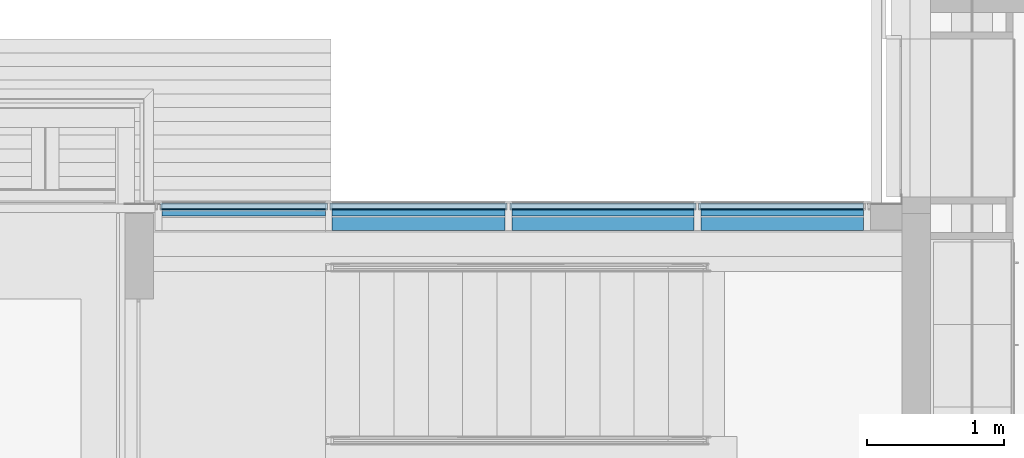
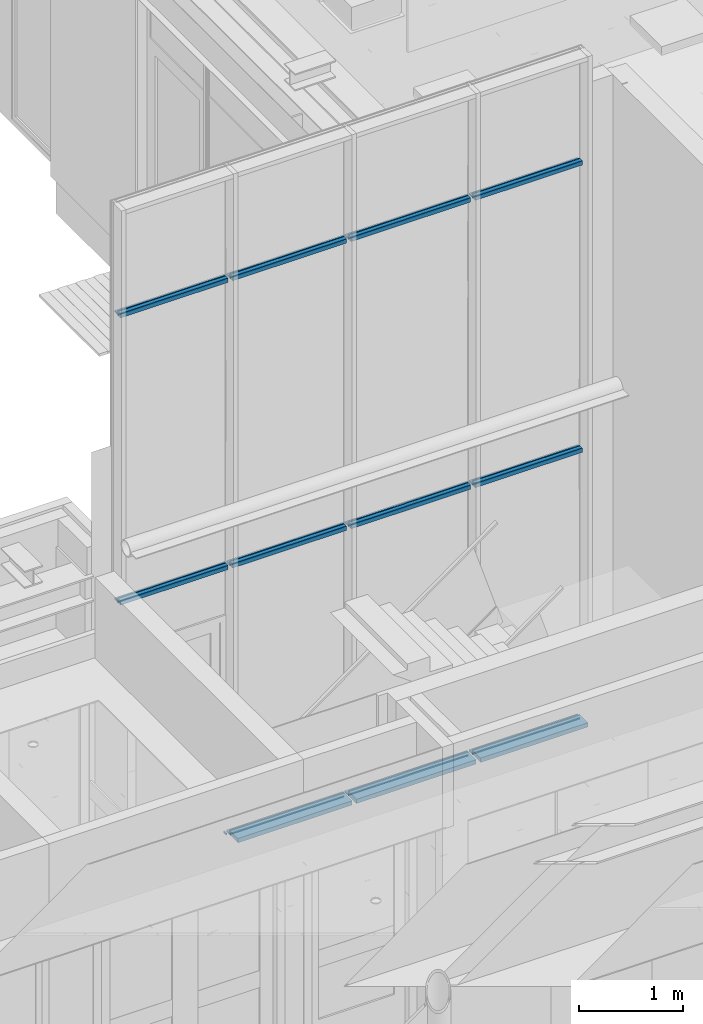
# One storey, part 104 of 347: 9 building element parts, 1 opening, 1 element without a shape of its own.
"""IFC2X3 building model written with IfcOpenShell, lengths in millimetres."""

import ifcopenshell
import ifcopenshell.guid

model = None  # the IFC model being written
_history = None  # IfcOwnerHistory: only IFC2X3 demands one
_inside = {}  # id of a spatial element -> (the spatial element, [elements in it])
_under = {}  # id of a project, library or spatial element -> (it, [spatial elements below it])
_declared = {}  # id of a project -> (the project, [libraries it declares])
_typed = {}  # id of a type object -> (the type object, [elements of that type])
_made_of = {}  # id of a material, layer set ... -> (it, [elements and type objects made of it])


def new_model(schema):
    """Start an empty IFC model of exactly this schema.

    Asked for "IFC4X3", IfcOpenShell would pick the latest addendum, in which some entities
    have other attributes; the version numbers below select the first issue.
    IFC2X3 requires an IfcOwnerHistory on every rooted entity: one is made here for all.
    """
    global model, _history
    if schema == "IFC4X3":
        model = ifcopenshell.file(schema_version=(4, 3, 0, 0))
    else:
        model = ifcopenshell.file(schema=schema)
    _inside.clear()
    _under.clear()
    _declared.clear()
    _typed.clear()
    _made_of.clear()
    _history = None
    if model.schema == "IFC2X3":
        org = make("IfcOrganization", Name="unknown")
        user = make(
            "IfcPersonAndOrganization",
            ThePerson=make("IfcPerson", FamilyName="unknown"),
            TheOrganization=org,
        )
        app = make(
            "IfcApplication",
            ApplicationDeveloper=org,
            Version="unknown",
            ApplicationFullName="unknown",
            ApplicationIdentifier="unknown",
        )
        _history = make(
            "IfcOwnerHistory",
            OwningUser=user,
            OwningApplication=app,
            ChangeAction="ADDED",
            CreationDate=0,
        )
    return model


def make(cls, **values):
    """One entity of the class cls with the attributes given. An attribute that is None is left unset."""
    return model.create_entity(
        cls, **{name: value for name, value in values.items() if value is not None}
    )


def entity(cls, *values):
    """Any entity or typed value of the class cls, its attributes in the order of the schema. None: left unset."""
    e = model.create_entity(cls)
    for i, value in enumerate(values):
        if value is not None:
            e[i] = value
    return e


def rooted(cls, **values):
    """An entity with a GlobalId (a new one), such as an element, a storey or a relation."""
    return make(cls, GlobalId=ifcopenshell.guid.new(), OwnerHistory=_history, **values)


def si_unit(unit_type, name, prefix=None):
    """IfcSIUnit, for example si_unit("LENGTHUNIT", "METRE", prefix="MILLI")."""
    return make("IfcSIUnit", UnitType=unit_type, Prefix=prefix, Name=name)


def converted_unit(unit_type, name, factor, base, dimensions=None, offset=None):
    """IfcConversionBasedUnit, such as the inch: factor (a typed value) times the base unit."""
    return make(
        "IfcConversionBasedUnit"
        if offset is None
        else "IfcConversionBasedUnitWithOffset",
        ConversionOffset=offset,
        Dimensions=None
        if dimensions is None
        else entity("IfcDimensionalExponents", *dimensions),
        UnitType=unit_type,
        Name=name,
        ConversionFactor=make(
            "IfcMeasureWithUnit", ValueComponent=factor, UnitComponent=base
        ),
    )


def derived_unit(unit_type, elements):
    """IfcDerivedUnit: a product of units, each with its exponent."""
    return make(
        "IfcDerivedUnit",
        Elements=[
            make("IfcDerivedUnitElement", Unit=unit, Exponent=power)
            for unit, power in elements
        ],
        UnitType=unit_type,
    )


def money_unit(currency):
    """IfcMonetaryUnit."""
    return make("IfcMonetaryUnit", Currency=currency)


def assignment(units):
    """IfcUnitAssignment: the units of a project."""
    return None if units is None else make("IfcUnitAssignment", Units=units)


def point(xyz):
    """IfcCartesianPoint."""
    return None if xyz is None else make("IfcCartesianPoint", Coordinates=xyz)


def direction(xyz):
    """IfcDirection."""
    return None if xyz is None else make("IfcDirection", DirectionRatios=xyz)


def frame(location, z_axis=None, x_axis=None):
    """IfcAxis2Placement3D, a coordinate frame: its origin and axes. An axis left out is left unset."""
    return make(
        "IfcAxis2Placement3D",
        Location=point(location),
        Axis=direction(z_axis),
        RefDirection=direction(x_axis),
    )


def origin_with_axes():
    """The frame at (0, 0, 0) with the z axis (0, 0, 1) and the x axis (1, 0, 0) written out."""
    return frame((0.0, 0.0, 0.0), z_axis=(0.0, 0.0, 1.0), x_axis=(1.0, 0.0, 0.0))


def place(relative_to, where):
    """IfcLocalPlacement: puts the frame where relative to a parent placement (None: the world)."""
    return make(
        "IfcLocalPlacement", PlacementRelTo=relative_to, RelativePlacement=where
    )


def context(
    kind, dimensions, precision=None, world=None, true_north=None, identifier=None
):
    """IfcGeometricRepresentationContext, for example the 3D "Model" context."""
    return make(
        "IfcGeometricRepresentationContext",
        ContextIdentifier=identifier,
        ContextType=kind,
        CoordinateSpaceDimension=dimensions,
        Precision=precision,
        WorldCoordinateSystem=world,
        TrueNorth=true_north,
    )


def subcontext(parent, identifier, kind, view, scale=None):
    """IfcGeometricRepresentationSubContext, for example "Body" below "Model"."""
    return make(
        "IfcGeometricRepresentationSubContext",
        ContextIdentifier=identifier,
        ContextType=kind,
        ParentContext=parent,
        TargetScale=scale,
        TargetView=view,
    )


def project(units=None, contexts=None):
    """IfcProject with its units and contexts."""
    return rooted(
        "IfcProject",
        Name="project",
        RepresentationContexts=contexts,
        UnitsInContext=assignment(units),
    )


def spatial(cls, under=None, at=None, **own):
    """A site, building, storey or space (cls), placed at a placement, below another one or the project."""
    s = rooted(cls, ObjectPlacement=at, **own)
    if under is not None:
        _under.setdefault(under.id(), (under, []))[1].append(s)
    return s


def faces_of(points, faces, orient=None, outer=None):
    """IfcFace entities. A face is a list of loops; a loop is a list of indices into points, from 0.

    orient and outer hold one flag for each loop. By default every Orientation is true, the
    first loop of a face is its IfcFaceOuterBound and the others are IfcFaceBound.
    """
    made = []
    for i, loops in enumerate(faces):
        bounds = []
        for j, loop in enumerate(loops):
            is_outer = j == 0 if outer is None else outer[i][j]
            bounds.append(
                make(
                    "IfcFaceOuterBound" if is_outer else "IfcFaceBound",
                    Bound=make("IfcPolyLoop", Polygon=[points[k] for k in loop]),
                    Orientation=True if orient is None else orient[i][j],
                )
            )
        made.append(make("IfcFace", Bounds=bounds))
    return made


def faceted_brep(points, faces, orient=None, outer=None, voids=None):
    """IfcFacetedBrep: a solid bounded by flat faces; with voids (closed shells), ...WithVoids."""
    shared = [point(p) for p in points]
    hull = make("IfcClosedShell", CfsFaces=faces_of(shared, faces, orient, outer))
    if voids is None:
        return make("IfcFacetedBrep", Outer=hull)
    return make(
        "IfcFacetedBrepWithVoids",
        Outer=hull,
        Voids=[
            make(cls, CfsFaces=faces_of(shared, fs, o, b)) for cls, fs, o, b in voids
        ],
    )


def shape(context_of_items, identifier, shape_type, items):
    """IfcShapeRepresentation: the items that make up one representation, for example the "Body"."""
    return make(
        "IfcShapeRepresentation",
        ContextOfItems=context_of_items,
        RepresentationIdentifier=identifier,
        RepresentationType=shape_type,
        Items=items,
    )


def material(Name=None, Category=None):
    """IfcMaterial."""
    return make("IfcMaterial", Name=Name, Category=Category)


def made_of(thing, what):
    """Note that an element or type object is made of a material, layer set ...; save() writes the relation."""
    if what is not None:
        _made_of.setdefault(what.id(), (what, []))[1].append(thing)
    return thing


def type_object(cls, material=None, **own):
    """A type object (cls), such as IfcWallType, which elements share."""
    return made_of(rooted(cls, **own), material)


def element(
    cls,
    number,
    at=None,
    inside=None,
    cuts=None,
    type_object=None,
    material=None,
    context=None,
    identifier="Body",
    shape_type=None,
    held_by="IfcProductDefinitionShape",
    body=None,
    shapes=None,
    **own,
):
    """One element of the class cls, such as IfcWall. Its Tag is "e" and its number.

    at: its placement. inside: the storey or other place that contains it. cuts: it is an
    opening in that element (IfcRelVoidsElement). A single representation is given by context,
    identifier, shape_type and body (its items); several are given by shapes. held_by: the class
    of the entity that holds the representations. save() writes the other relations.
    """
    e = rooted(cls, Tag="e%d" % number, ObjectPlacement=at, **own)
    if body is not None:
        shapes = [shape(context, identifier, shape_type, body)]
    if shapes is not None:
        e.Representation = make(held_by, Representations=shapes)
    if inside is not None:
        _inside.setdefault(inside.id(), (inside, []))[1].append(e)
    if cuts is not None:
        rooted(
            "IfcRelVoidsElement", RelatingBuildingElement=cuts, RelatedOpeningElement=e
        )
    if type_object is not None:
        _typed.setdefault(type_object.id(), (type_object, []))[1].append(e)
    return made_of(e, material)


def aggregate(whole, parts):
    """IfcRelAggregates: a whole, such as a stair, and the parts it consists of."""
    return rooted("IfcRelAggregates", RelatingObject=whole, RelatedObjects=parts)


def save(model, path):
    """Write the relations noted so far, then the file.

    IfcRelAggregates (storeys below a building ...), IfcRelContainedInSpatialStructure (elements
    in a storey), IfcRelDefinesByType, IfcRelAssociatesMaterial and IfcRelDeclares: one each for
    every whole, place, type object, material and project.
    """
    for whole, parts in _under.values():
        aggregate(whole, parts)
    for where, things in _inside.values():
        rooted(
            "IfcRelContainedInSpatialStructure",
            RelatedElements=things,
            RelatingStructure=where,
        )
    for kind, things in _typed.values():
        rooted("IfcRelDefinesByType", RelatedObjects=things, RelatingType=kind)
    for what, things in _made_of.values():
        rooted("IfcRelAssociatesMaterial", RelatedObjects=things, RelatingMaterial=what)
    for by, libraries in _declared.values():
        rooted("IfcRelDeclares", RelatingContext=by, RelatedDefinitions=libraries)
    model.write(path)


model = new_model("IFC2X3")

# Units and contexts
model_context = context("Model", 3, precision=0.01, world=origin_with_axes(), true_north=direction((0.0, 1.0)))
plan_context = context("Plan", 3, precision=0.01, world=origin_with_axes(), true_north=direction((0.0, 1.0)))
body_context = subcontext(model_context, "Body", "Model", "MODEL_VIEW")
ifc_project = project(units=[si_unit("LENGTHUNIT", "METRE", prefix="MILLI"), si_unit("AREAUNIT", "SQUARE_METRE"), si_unit("VOLUMEUNIT", "CUBIC_METRE"), converted_unit("PLANEANGLEUNIT", "DEGREE", entity("IfcPlaneAngleMeasure", 0.0174532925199), si_unit("PLANEANGLEUNIT", "RADIAN"), dimensions=[0, 0, 0, 0, 0, 0, 0]), money_unit("EUR"), converted_unit("TIMEUNIT", "Year", entity("IfcTimeMeasure", 31556926.0), si_unit("TIMEUNIT", "SECOND"), dimensions=[0, 0, 1, 0, 0, 0, 0]), si_unit("MASSUNIT", "GRAM", prefix="KILO"), si_unit("THERMODYNAMICTEMPERATUREUNIT", "DEGREE_CELSIUS"), si_unit("LUMINOUSINTENSITYUNIT", "LUMEN"), si_unit("ENERGYUNIT", "JOULE", prefix="MEGA"), derived_unit("THERMALCONDUCTANCEUNIT", [(si_unit("POWERUNIT", "WATT"), 1), (si_unit("LENGTHUNIT", "METRE"), -1), (si_unit("THERMODYNAMICTEMPERATUREUNIT", "KELVIN"), -1)]), derived_unit("SPECIFICHEATCAPACITYUNIT", [(si_unit("ENERGYUNIT", "JOULE"), 1), (si_unit("MASSUNIT", "GRAM", prefix="KILO"), -1), (si_unit("THERMODYNAMICTEMPERATUREUNIT", "KELVIN"), -1)]), derived_unit("MASSDENSITYUNIT", [(si_unit("MASSUNIT", "GRAM", prefix="KILO"), 1), (si_unit("VOLUMEUNIT", "CUBIC_METRE"), -1)])], contexts=[model_context, plan_context])

# Site, building, storey
site_placement = place(None, origin_with_axes())
site = spatial("IfcSite", under=ifc_project, at=site_placement, Name="Site", CompositionType="ELEMENT")
building_placement = place(site_placement, origin_with_axes())
building = spatial("IfcBuilding", under=site, at=building_placement, Name="Naam gebouw", CompositionType="ELEMENT")
storey_placement = place(building_placement, origin_with_axes())
storey = spatial("IfcBuildingStorey", under=building, at=storey_placement, Name="begane grond", CompositionType="ELEMENT", Elevation=0.0)

# Proxy, opening, building element parts
building_element_proxy_type = type_object("IfcBuildingElementProxyType", Name="31 vliesgevel drsn 212 x 8350", PredefinedType="NOTDEFINED")
proxy_placement = place(storey_placement, frame((18665.0, 18595.0, 0.0), z_axis=(0.0, 0.0, 1.0), x_axis=(1.0, 0.0, 0.0)))
proxy = element("IfcBuildingElementProxy", 1, at=proxy_placement, inside=storey, type_object=building_element_proxy_type, Name="42_53 wandtegels keramisch")
opening_placement = place(proxy_placement, frame((600.000000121, 0.0, -40.0), z_axis=(0.0, 0.0, 1.0), x_axis=(1.0, 0.0, 0.0)))
element("IfcOpeningElement", 2, at=opening_placement, cuts=proxy, Name="32_merk-C1", context=body_context, shape_type="Brep", body=[
    faceted_brep([(-601.999999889, 1541.00000358, 2640.0), (-601.999999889, 1541.00000358, 0.0), (-601.999999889, -1965.00001073, 0.0), (-601.999999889, -1965.00001073, 2640.0), (601.999999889, 1541.00000358, 2640.0), (601.999999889, 1541.00000358, 0.0), (601.999999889, -1965.00001073, 0.0), (601.999999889, -1965.00001073, 2640.0)], [[[0, 1, 2, 3]], [[0, 4, 5, 1]], [[1, 5, 6, 2]], [[3, 2, 6, 7]], [[4, 0, 3, 7]], [[5, 4, 7, 6]]]),
])
ifc_material_1 = material(Name="Membraan - rubber")
building_element_part_1_placement = place(proxy_placement, origin_with_axes())
building_element_part_1 = element("IfcBuildingElementPart", 3, at=building_element_part_1_placement, material=ifc_material_1, Name="Membraan - rubber", context=body_context, shape_type="Brep", body=[
    faceted_brep([(3935.00000024, -34.9999990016, 35.0000007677), (3935.00000024, -34.9999990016, 50.0000010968), (5119.99999993, -34.9999998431, 50.0000010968), (5119.99999993, -34.9999998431, 35.0000007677), (3935.00000024, -44.9999992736, 50.0000010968), (3935.00000024, -44.9999992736, 35.0000007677), (5119.99999993, -45.0000002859, 50.0000010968), (5119.99999993, -45.0000002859, 35.0000007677)], [[[0, 1, 2, 3]], [[4, 1, 0, 5]], [[1, 4, 6, 2]], [[7, 3, 2, 6]], [[5, 0, 3, 7]], [[4, 5, 7, 6]]]),
    faceted_brep([(2560.00000024, -34.9999997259, 35.0000007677), (2560.00000024, -34.9999997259, 50.0000010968), (3885.0, -34.9999990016, 50.0000010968), (3885.0, -34.9999990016, 35.0000007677), (2560.00000024, -44.9999999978, 50.0000010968), (2560.00000024, -44.9999999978, 35.0000007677), (3885.0, -44.9999992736, 50.0000010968), (3885.0, -44.9999992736, 35.0000007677)], [[[0, 1, 2, 3]], [[4, 1, 0, 5]], [[1, 4, 6, 2]], [[3, 2, 6, 7]], [[5, 0, 3, 7]], [[4, 5, 7, 6]]]),
    faceted_brep([(1250.00000024, -34.9999990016, 35.0000007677), (1250.00000024, -34.9999990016, 50.0000010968), (2510.0, -34.9999997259, 50.0000010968), (2510.0, -34.9999997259, 35.0000007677), (1250.00000024, -44.9999992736, 50.0000010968), (1250.00000024, -44.9999992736, 35.0000007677), (2510.0, -44.9999999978, 50.0000010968), (2510.0, -44.9999999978, 35.0000007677)], [[[0, 1, 2, 3]], [[4, 1, 0, 5]], [[1, 4, 6, 2]], [[3, 2, 6, 7]], [[5, 0, 3, 7]], [[4, 5, 7, 6]]]),
])
building_element_part_2_placement = place(proxy_placement, origin_with_axes())
building_element_part_2 = element("IfcBuildingElementPart", 4, at=building_element_part_2_placement, material=ifc_material_1, Name="Membraan - rubber", context=body_context, shape_type="Brep", body=[
    faceted_brep([(10.0000002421, -34.999998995, 6510.0), (10.0000002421, -34.999998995, 6524.99999924), (1200.0, -34.9999990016, 6524.99999924), (1200.0, -34.9999990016, 6510.0), (10.0000002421, -44.9999992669, 6525.00000058), (10.0000002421, -44.9999992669, 6510.0), (1200.0, -44.9999992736, 6525.00000058), (1200.0, -44.9999992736, 6510.0)], [[[0, 1, 2, 3]], [[4, 1, 0, 5]], [[1, 4, 6, 2]], [[3, 2, 6, 7]], [[5, 0, 3, 7]], [[4, 5, 7, 6]]]),
    faceted_brep([(3935.00000024, -34.9999990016, 6510.0), (3935.00000024, -34.9999990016, 6524.99999924), (5119.99999993, -35.0000007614, 6524.99999924), (5119.99999993, -35.0000007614, 6510.0), (3935.00000024, -44.9999992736, 6525.00000058), (3935.00000024, -44.9999992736, 6510.0), (5119.99999993, -45.0000002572, 6525.00000058), (5119.99999993, -45.0000002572, 6510.0)], [[[0, 1, 2, 3]], [[4, 1, 0, 5]], [[1, 4, 6, 2]], [[2, 6, 7, 3]], [[5, 0, 3, 7]], [[4, 5, 7, 6]]]),
    faceted_brep([(2560.00000024, -34.9999997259, 6510.0), (2560.00000024, -34.9999997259, 6524.99999924), (3885.0, -34.9999990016, 6524.99999924), (3885.0, -34.9999990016, 6510.0), (2560.00000024, -44.9999999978, 6525.00000058), (2560.00000024, -44.9999999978, 6510.0), (3885.0, -44.9999992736, 6525.00000058), (3885.0, -44.9999992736, 6510.0)], [[[0, 1, 2, 3]], [[4, 1, 0, 5]], [[1, 4, 6, 2]], [[3, 2, 6, 7]], [[5, 0, 3, 7]], [[4, 5, 7, 6]]]),
    faceted_brep([(1250.00000024, -34.9999990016, 6510.0), (1250.00000024, -34.9999990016, 6524.99999924), (2510.0, -34.9999997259, 6524.99999924), (2510.0, -34.9999997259, 6510.0), (1250.00000024, -44.9999992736, 6525.00000058), (1250.00000024, -44.9999992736, 6510.0), (2510.0, -44.9999999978, 6525.00000058), (2510.0, -44.9999999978, 6510.0)], [[[0, 1, 2, 3]], [[4, 1, 0, 5]], [[1, 4, 6, 2]], [[3, 2, 6, 7]], [[5, 0, 3, 7]], [[4, 5, 7, 6]]]),
])
building_element_part_3_placement = place(proxy_placement, origin_with_axes())
building_element_part_3 = element("IfcBuildingElementPart", 5, at=building_element_part_3_placement, material=ifc_material_1, Name="Membraan - rubber", context=body_context, shape_type="Brep", body=[
    faceted_brep([(10.0000002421, -34.999998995, 6545.00000011), (10.0000002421, -34.999998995, 6559.99999936), (1200.0, -34.9999990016, 6559.99999936), (1200.0, -34.9999990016, 6545.00000011), (10.0000002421, -44.9999992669, 6559.99999936), (10.0000002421, -44.9999992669, 6545.00000011), (1200.0, -44.9999992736, 6559.99999936), (1200.0, -44.9999992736, 6545.00000011)], [[[0, 1, 2, 3]], [[4, 1, 0, 5]], [[1, 4, 6, 2]], [[3, 2, 6, 7]], [[5, 0, 3, 7]], [[4, 5, 7, 6]]]),
    faceted_brep([(3935.00000024, -34.9999990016, 6545.00000011), (3935.00000024, -34.9999990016, 6559.99999936), (5119.99999993, -35.0000007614, 6559.99999936), (5119.99999993, -35.0000007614, 6545.00000011), (3935.00000024, -44.9999992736, 6559.99999936), (3935.00000024, -44.9999992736, 6545.00000011), (5119.99999993, -45.0000002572, 6559.99999936), (5119.99999993, -45.0000002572, 6545.00000011)], [[[0, 1, 2, 3]], [[4, 1, 0, 5]], [[1, 4, 6, 2]], [[3, 2, 6, 7]], [[5, 0, 3, 7]], [[4, 5, 7, 6]]]),
    faceted_brep([(2560.00000024, -34.9999997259, 6545.00000011), (2560.00000024, -34.9999997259, 6559.99999936), (3885.0, -34.9999990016, 6559.99999936), (3885.0, -34.9999990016, 6545.00000011), (2560.00000024, -44.9999999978, 6559.99999936), (2560.00000024, -44.9999999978, 6545.00000011), (3885.0, -44.9999992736, 6559.99999936), (3885.0, -44.9999992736, 6545.00000011)], [[[0, 1, 2, 3]], [[4, 1, 0, 5]], [[1, 4, 6, 2]], [[3, 2, 6, 7]], [[5, 0, 3, 7]], [[4, 5, 7, 6]]]),
    faceted_brep([(1250.00000024, -34.9999990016, 6545.00000011), (1250.00000024, -34.9999990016, 6559.99999936), (2510.0, -34.9999997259, 6559.99999936), (2510.0, -34.9999997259, 6545.00000011), (1250.00000024, -44.9999992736, 6559.99999936), (1250.00000024, -44.9999992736, 6545.00000011), (2510.0, -44.9999999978, 6559.99999936), (2510.0, -44.9999999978, 6545.00000011)], [[[0, 1, 2, 3]], [[4, 1, 0, 5]], [[1, 4, 6, 2]], [[3, 2, 6, 7]], [[5, 0, 3, 7]], [[4, 5, 7, 6]]]),
])
building_element_part_4_placement = place(proxy_placement, origin_with_axes())
building_element_part_4 = element("IfcBuildingElementPart", 6, at=building_element_part_4_placement, material=ifc_material_1, Name="Membraan - rubber", context=body_context, shape_type="Brep", body=[
    faceted_brep([(10.0000002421, -34.999998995, 3150.0), (10.0000002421, -34.999998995, 3164.99999924), (1200.0, -34.9999990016, 3164.99999924), (1200.0, -34.9999990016, 3150.0), (10.0000002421, -44.9999992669, 3165.00000058), (10.0000002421, -44.9999992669, 3150.0), (1200.0, -44.9999992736, 3165.00000058), (1200.0, -44.9999992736, 3150.0)], [[[0, 1, 2, 3]], [[4, 1, 0, 5]], [[1, 4, 6, 2]], [[3, 2, 6, 7]], [[5, 0, 3, 7]], [[4, 5, 7, 6]]]),
    faceted_brep([(3935.00000024, -34.9999990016, 3150.0), (3935.00000024, -34.9999990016, 3164.99999924), (5119.99999993, -35.0000007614, 3164.99999924), (5119.99999993, -35.0000007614, 3150.0), (3935.00000024, -44.9999992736, 3165.00000058), (3935.00000024, -44.9999992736, 3150.0), (5119.99999993, -45.0000002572, 3165.00000058), (5119.99999993, -45.0000002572, 3150.0)], [[[0, 1, 2, 3]], [[4, 1, 0, 5]], [[1, 4, 6, 2]], [[2, 6, 7, 3]], [[5, 0, 3, 7]], [[4, 5, 7, 6]]]),
    faceted_brep([(2560.00000024, -34.9999997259, 3150.0), (2560.00000024, -34.9999997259, 3164.99999924), (3885.0, -34.9999990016, 3164.99999924), (3885.0, -34.9999990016, 3150.0), (2560.00000024, -44.9999999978, 3165.00000058), (2560.00000024, -44.9999999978, 3150.0), (3885.0, -44.9999992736, 3165.00000058), (3885.0, -44.9999992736, 3150.0)], [[[0, 1, 2, 3]], [[4, 1, 0, 5]], [[1, 4, 6, 2]], [[3, 2, 6, 7]], [[5, 0, 3, 7]], [[4, 5, 7, 6]]]),
    faceted_brep([(1250.00000024, -34.9999990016, 3150.0), (1250.00000024, -34.9999990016, 3164.99999924), (2510.0, -34.9999997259, 3164.99999924), (2510.0, -34.9999997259, 3150.0), (1250.00000024, -44.9999992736, 3165.00000058), (1250.00000024, -44.9999992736, 3150.0), (2510.0, -44.9999999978, 3165.00000058), (2510.0, -44.9999999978, 3150.0)], [[[0, 1, 2, 3]], [[4, 1, 0, 5]], [[1, 4, 6, 2]], [[3, 2, 6, 7]], [[5, 0, 3, 7]], [[4, 5, 7, 6]]]),
])
building_element_part_5_placement = place(proxy_placement, origin_with_axes())
building_element_part_5 = element("IfcBuildingElementPart", 7, at=building_element_part_5_placement, material=ifc_material_1, Name="Membraan - rubber", context=body_context, shape_type="Brep", body=[
    faceted_brep([(10.0000002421, -34.999998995, 3185.00000011), (10.0000002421, -34.999998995, 3199.99999936), (1200.0, -34.9999990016, 3199.99999936), (1200.0, -34.9999990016, 3185.00000011), (10.0000002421, -44.9999992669, 3199.99999936), (10.0000002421, -44.9999992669, 3185.00000011), (1200.0, -44.9999992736, 3199.99999936), (1200.0, -44.9999992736, 3185.00000011)], [[[0, 1, 2, 3]], [[4, 1, 0, 5]], [[1, 4, 6, 2]], [[3, 2, 6, 7]], [[5, 0, 3, 7]], [[4, 5, 7, 6]]]),
    faceted_brep([(3935.00000024, -34.9999990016, 3185.00000011), (3935.00000024, -34.9999990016, 3199.99999936), (5119.99999993, -35.0000007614, 3199.99999936), (5119.99999993, -35.0000007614, 3185.00000011), (3935.00000024, -44.9999992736, 3199.99999936), (3935.00000024, -44.9999992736, 3185.00000011), (5119.99999993, -45.0000002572, 3199.99999936), (5119.99999993, -45.0000002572, 3185.00000011)], [[[0, 1, 2, 3]], [[4, 1, 0, 5]], [[1, 4, 6, 2]], [[3, 2, 6, 7]], [[5, 0, 3, 7]], [[4, 5, 7, 6]]]),
    faceted_brep([(2560.00000024, -34.9999997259, 3185.00000011), (2560.00000024, -34.9999997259, 3199.99999936), (3885.0, -34.9999990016, 3199.99999936), (3885.0, -34.9999990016, 3185.00000011), (2560.00000024, -44.9999999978, 3199.99999936), (2560.00000024, -44.9999999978, 3185.00000011), (3885.0, -44.9999992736, 3199.99999936), (3885.0, -44.9999992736, 3185.00000011)], [[[0, 1, 2, 3]], [[4, 1, 0, 5]], [[1, 4, 6, 2]], [[3, 2, 6, 7]], [[5, 0, 3, 7]], [[4, 5, 7, 6]]]),
    faceted_brep([(1250.00000024, -34.9999990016, 3185.00000011), (1250.00000024, -34.9999990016, 3199.99999936), (2510.0, -34.9999997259, 3199.99999936), (2510.0, -34.9999997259, 3185.00000011), (1250.00000024, -44.9999992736, 3199.99999936), (1250.00000024, -44.9999992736, 3185.00000011), (2510.0, -44.9999999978, 3199.99999936), (2510.0, -44.9999999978, 3185.00000011)], [[[0, 1, 2, 3]], [[4, 1, 0, 5]], [[1, 4, 6, 2]], [[3, 2, 6, 7]], [[5, 0, 3, 7]], [[4, 5, 7, 6]]]),
])
building_element_part_6_placement = place(proxy_placement, origin_with_axes())
building_element_part_6 = element("IfcBuildingElementPart", 8, at=building_element_part_6_placement, material=ifc_material_1, Name="Membraan - rubber", context=body_context, shape_type="Brep", body=[
    faceted_brep([(3935.00000024, -34.9999990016, 1.99999982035), (3935.00000024, -34.9999990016, 15.000000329), (5119.99999993, -34.9999998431, 15.000000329), (5119.99999993, -34.9999998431, 1.99999982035), (3935.00000024, -44.9999992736, 15.000000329), (3935.00000024, -34.9999990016, 0.0), (3935.00000024, -44.9999992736, 0.0), (5119.99999993, -45.0000002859, 15.000000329), (5119.99999993, -45.0000002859, 0.0), (5119.99999993, -34.9999998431, 2.68221178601e-06)], [[[0, 1, 2, 3]], [[4, 1, 0, 5, 6]], [[1, 4, 7, 2]], [[3, 2, 7, 8, 9]], [[5, 0, 3, 9]], [[6, 5, 9, 8]], [[4, 6, 8, 7]]]),
    faceted_brep([(2560.00000024, -34.9999997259, 1.99999982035), (2560.00000024, -34.9999997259, 15.000000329), (3885.0, -34.9999990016, 15.000000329), (3885.0, -34.9999990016, 1.99999982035), (2560.00000024, -44.9999999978, 15.000000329), (2560.00000024, -34.9999997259, 0.0), (2560.00000024, -44.9999999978, 0.0), (3885.0, -44.9999992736, 15.000000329), (3885.0, -44.9999992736, 0.0), (3885.0, -34.9999990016, 0.0)], [[[0, 1, 2, 3]], [[4, 1, 0, 5, 6]], [[1, 4, 7, 2]], [[3, 2, 7, 8, 9]], [[5, 0, 3, 9]], [[6, 5, 9, 8]], [[4, 6, 8, 7]]]),
    faceted_brep([(1250.00000024, -34.9999990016, 1.99999982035), (1250.00000024, -34.9999990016, 15.000000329), (2510.0, -34.9999997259, 15.000000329), (2510.0, -34.9999997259, 1.99999982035), (1250.00000024, -44.9999992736, 15.000000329), (1250.00000024, -34.9999990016, 0.0), (1250.00000024, -44.9999992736, 0.0), (2510.0, -44.9999999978, 15.000000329), (2510.0, -44.9999999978, 0.0), (2510.0, -34.9999997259, 0.0)], [[[0, 1, 2, 3]], [[4, 1, 0, 5, 6]], [[1, 4, 7, 2]], [[3, 2, 7, 8, 9]], [[5, 0, 3, 9]], [[6, 5, 9, 8]], [[4, 6, 8, 7]]]),
])
ifc_material_2 = material(Name="Metaal - Aluminium")
building_element_part_7_placement = place(proxy_placement, origin_with_axes())
building_element_part_7 = element("IfcBuildingElementPart", 9, at=building_element_part_7_placement, material=ifc_material_2, Name="Metaal - Aluminium", context=body_context, shape_type="Brep", body=[
    faceted_brep([(10.0000010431, -45.0000000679, 3185.00000058), (10.0000010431, -45.0000000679, 3199.99999946), (1200.0, -45.0000000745, 3199.99999946), (1200.0, -45.0000000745, 3185.00000058), (10.0000010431, -90.0, 3199.99999946), (10.0000010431, -45.0000000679, 3165.00000048), (10.0000010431, -45.0000000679, 3150.0), (10.0000010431, -90.0, 3150.0), (1200.0, -90.0, 3199.99999946), (1200.0, -90.0, 3150.0), (1200.0, -45.0000000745, 3150.0), (1200.0, -45.0000000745, 3165.00000048), (0.0, -45.0000000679, 3185.00000058), (1214.99999903, -45.0000000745, 3185.00000058), (1214.99999903, 5.00000096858, 3185.00000058), (0.0, 4.99999929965, 3185.00000058), (0.0, 3.31187521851e-07, 3185.00000058), (12.0000000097, 3.31187521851e-07, 3185.00000058), (12.0000000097, -2.00000076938, 3185.00000058), (0.0, -2.00000076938, 3185.00000058), (0.0, -45.0000000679, 3165.00000048), (1214.99999903, -45.0000000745, 3165.00000048), (1214.99999903, 5.00000096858, 3165.00000048), (0.0, 4.99999929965, 3165.00000048), (0.0, 3.31187521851e-07, 3165.00000048), (12.0000000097, 3.31187521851e-07, 3165.00000048), (12.0000000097, -2.00000076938, 3165.00000048), (0.0, -2.00000076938, 3165.00000048)], [[[0, 1, 2, 3]], [[4, 1, 0, 5, 6, 7]], [[1, 4, 8, 2]], [[3, 2, 8, 9, 10, 11]], [[12, 0, 3, 13, 14, 15, 16, 17, 18, 19]], [[0, 12, 20, 5]], [[6, 5, 11, 10]], [[7, 6, 10, 9]], [[4, 7, 9, 8]], [[13, 3, 11, 21]], [[22, 14, 13, 21]], [[14, 22, 23, 15]], [[23, 24, 16, 15]], [[25, 17, 16, 24]], [[26, 18, 17, 25]], [[27, 19, 18, 26]], [[20, 12, 19, 27]], [[5, 20, 27, 26, 25, 24, 23, 22, 21, 11]]]),
    faceted_brep([(3935.00000104, -45.0000000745, 3185.00000058), (3935.00000104, -45.0000000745, 3199.99999946), (5119.99999993, -45.0000001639, 3199.99999946), (5119.99999993, -45.0000001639, 3185.00000058), (3935.00000104, -90.0, 3199.99999946), (3935.00000104, -45.0000000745, 3165.00000048), (3935.00000104, -45.0000000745, 3150.0), (3935.00000104, -90.0, 3150.0), (5119.99999993, -90.0, 3199.99999946), (5119.99999993, 4.99999929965, 3165.00000048), (5119.99999993, 4.99999929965, 3185.00000058), (5119.99999993, -90.0, 3150.0), (5119.99999993, -45.0000001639, 3150.0), (5119.99999993, -45.0000001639, 3165.00000048), (3919.99999881, -45.0000000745, 3185.00000058), (3919.99999881, 5.00000096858, 3185.00000058), (3919.99999881, -45.0000000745, 3165.00000048), (3919.99999881, 5.00000096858, 3165.00000048)], [[[0, 1, 2, 3]], [[4, 1, 0, 5, 6, 7]], [[1, 4, 8, 2]], [[9, 10, 3, 2, 8, 11, 12, 13]], [[14, 0, 3, 10, 15]], [[0, 14, 16, 5]], [[6, 5, 13, 12]], [[7, 6, 12, 11]], [[4, 7, 11, 8]], [[17, 15, 10, 9]], [[16, 17, 9, 13, 5]], [[14, 15, 17, 16]]]),
    faceted_brep([(2560.00000104, -45.0000007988, 3185.00000058), (2560.00000104, -45.0000007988, 3199.99999946), (3885.0, -45.0000000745, 3199.99999946), (3885.0, -45.0000000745, 3185.00000058), (2560.00000104, -90.0, 3199.99999946), (2560.00000104, -45.0000007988, 3165.00000048), (2560.00000104, -45.0000007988, 3150.0), (2560.00000104, -90.0, 3150.0), (3885.0, -90.0, 3199.99999946), (3885.0, -90.0, 3150.0), (3885.0, -45.0000000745, 3150.0), (3885.0, -45.0000000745, 3165.00000048), (2544.99999881, -45.0000007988, 3185.00000058), (3899.99999903, -45.0000000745, 3185.00000058), (3899.99999903, 5.00000096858, 3185.00000058), (2544.99999881, 5.00000024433, 3185.00000058), (2544.99999881, -45.0000007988, 3165.00000048), (3899.99999903, -45.0000000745, 3165.00000048), (3899.99999903, 5.00000096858, 3165.00000048), (2544.99999881, 5.00000024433, 3165.00000048)], [[[0, 1, 2, 3]], [[4, 1, 0, 5, 6, 7]], [[1, 4, 8, 2]], [[3, 2, 8, 9, 10, 11]], [[12, 0, 3, 13, 14, 15]], [[0, 12, 16, 5]], [[6, 5, 11, 10]], [[7, 6, 10, 9]], [[4, 7, 9, 8]], [[13, 3, 11, 17]], [[18, 14, 13, 17]], [[19, 15, 14, 18]], [[12, 15, 19, 16]], [[16, 19, 18, 17, 11, 5]]]),
    faceted_brep([(1250.00000104, -45.0000000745, 3185.00000058), (1250.00000104, -45.0000000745, 3199.99999946), (2510.0, -45.0000007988, 3199.99999946), (2510.0, -45.0000007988, 3185.00000058), (1250.00000104, -90.0, 3199.99999946), (1250.00000104, -45.0000000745, 3165.00000048), (1250.00000104, -45.0000000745, 3150.0), (1250.00000104, -90.0, 3150.0), (2510.0, -90.0, 3199.99999946), (2510.0, -90.0, 3150.0), (2510.0, -45.0000007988, 3150.0), (2510.0, -45.0000007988, 3165.00000048), (1234.99999881, -45.0000000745, 3185.00000058), (2524.99999903, -45.0000007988, 3185.00000058), (2524.99999903, 5.00000024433, 3185.00000058), (1234.99999881, 5.00000096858, 3185.00000058), (1234.99999881, -45.0000000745, 3165.00000048), (2524.99999903, -45.0000007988, 3165.00000048), (2524.99999903, 5.00000024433, 3165.00000048), (1234.99999881, 5.00000096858, 3165.00000048)], [[[0, 1, 2, 3]], [[4, 1, 0, 5, 6, 7]], [[1, 4, 8, 2]], [[3, 2, 8, 9, 10, 11]], [[12, 0, 3, 13, 14, 15]], [[0, 12, 16, 5]], [[6, 5, 11, 10]], [[7, 6, 10, 9]], [[4, 7, 9, 8]], [[13, 3, 11, 17]], [[18, 14, 13, 17]], [[19, 15, 14, 18]], [[12, 15, 19, 16]], [[16, 19, 18, 17, 11, 5]]]),
])
building_element_part_8_placement = place(proxy_placement, origin_with_axes())
building_element_part_8 = element("IfcBuildingElementPart", 10, at=building_element_part_8_placement, material=ifc_material_2, Name="Metaal - Aluminium", context=body_context, shape_type="Brep", body=[
    faceted_brep([(10.0000010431, -45.0000000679, 6545.00000058), (10.0000010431, -45.0000000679, 6559.99999946), (1200.0, -45.0000000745, 6559.99999946), (1200.0, -45.0000000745, 6545.00000058), (10.0000010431, -90.0, 6559.99999946), (10.0000010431, -45.0000000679, 6525.00000048), (10.0000010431, -45.0000000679, 6510.0), (10.0000010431, -90.0, 6510.0), (1200.0, -90.0, 6559.99999946), (1200.0, -90.0, 6510.0), (1200.0, -45.0000000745, 6510.0), (1200.0, -45.0000000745, 6525.00000048), (0.0, -45.0000000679, 6545.00000058), (1214.99999903, -45.0000000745, 6545.00000058), (1214.99999903, 5.00000096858, 6545.00000058), (0.0, 4.99999929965, 6545.00000058), (0.0, -45.0000000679, 6525.00000048), (1214.99999903, -45.0000000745, 6525.00000048), (1214.99999903, 5.00000096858, 6525.00000048), (0.0, 4.99999929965, 6525.00000048)], [[[0, 1, 2, 3]], [[4, 1, 0, 5, 6, 7]], [[1, 4, 8, 2]], [[3, 2, 8, 9, 10, 11]], [[12, 0, 3, 13, 14, 15]], [[0, 12, 16, 5]], [[6, 5, 11, 10]], [[7, 6, 10, 9]], [[4, 7, 9, 8]], [[13, 3, 11, 17]], [[18, 14, 13, 17]], [[14, 18, 19, 15]], [[16, 12, 15, 19]], [[5, 16, 19, 18, 17, 11]]]),
    faceted_brep([(3935.00000104, -45.0000000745, 6545.00000058), (3935.00000104, -45.0000000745, 6559.99999946), (5119.99999993, -45.0000001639, 6559.99999946), (5119.99999993, -45.0000001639, 6545.00000058), (3935.00000104, -90.0, 6559.99999946), (3935.00000104, -45.0000000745, 6525.00000048), (3935.00000104, -45.0000000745, 6510.0), (3935.00000104, -90.0, 6510.0), (5119.99999993, -90.0, 6559.99999946), (5119.99999993, 4.99999929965, 6545.00000058), (5119.99999993, -90.0, 6510.0), (5119.99999993, -45.0000001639, 6510.0), (5119.99999993, -45.0000001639, 6525.00000048), (5119.99999993, 4.99999929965, 6525.00000048), (3919.99999881, -45.0000000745, 6545.00000058), (3919.99999881, 5.00000096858, 6545.00000058), (3919.99999881, -45.0000000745, 6525.00000048), (3919.99999881, 5.00000096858, 6525.00000048)], [[[0, 1, 2, 3]], [[4, 1, 0, 5, 6, 7]], [[1, 4, 8, 2]], [[9, 3, 2, 8, 10, 11, 12, 13]], [[14, 0, 3, 9, 15]], [[0, 14, 16, 5]], [[6, 5, 12, 11]], [[7, 6, 11, 10]], [[4, 7, 10, 8]], [[16, 17, 13, 12, 5]], [[17, 15, 9, 13]], [[14, 15, 17, 16]]]),
    faceted_brep([(2560.00000104, -45.0000007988, 6545.00000058), (2560.00000104, -45.0000007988, 6559.99999946), (3885.0, -45.0000000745, 6559.99999946), (3885.0, -45.0000000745, 6545.00000058), (2560.00000104, -90.0, 6559.99999946), (2560.00000104, -45.0000007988, 6525.00000048), (2560.00000104, -45.0000007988, 6510.0), (2560.00000104, -90.0, 6510.0), (3885.0, -90.0, 6559.99999946), (3885.0, -90.0, 6510.0), (3885.0, -45.0000000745, 6510.0), (3885.0, -45.0000000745, 6525.00000048), (2544.99999881, -45.0000007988, 6545.00000058), (3899.99999903, -45.0000000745, 6545.00000058), (3899.99999903, 5.00000096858, 6545.00000058), (2544.99999881, 5.00000024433, 6545.00000058), (2544.99999881, -45.0000007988, 6525.00000048), (3899.99999903, -45.0000000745, 6525.00000048), (3899.99999903, 5.00000096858, 6525.00000048), (2544.99999881, 5.00000024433, 6525.00000048)], [[[0, 1, 2, 3]], [[4, 1, 0, 5, 6, 7]], [[1, 4, 8, 2]], [[3, 2, 8, 9, 10, 11]], [[12, 0, 3, 13, 14, 15]], [[0, 12, 16, 5]], [[6, 5, 11, 10]], [[7, 6, 10, 9]], [[4, 7, 9, 8]], [[13, 3, 11, 17]], [[18, 14, 13, 17]], [[19, 15, 14, 18]], [[12, 15, 19, 16]], [[16, 19, 18, 17, 11, 5]]]),
    faceted_brep([(1250.00000104, -45.0000000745, 6545.00000058), (1250.00000104, -45.0000000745, 6559.99999946), (2510.0, -45.0000007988, 6559.99999946), (2510.0, -45.0000007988, 6545.00000058), (1250.00000104, -90.0, 6559.99999946), (1250.00000104, -45.0000000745, 6525.00000048), (1250.00000104, -45.0000000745, 6510.0), (1250.00000104, -90.0, 6510.0), (2510.0, -90.0, 6559.99999946), (2510.0, -90.0, 6510.0), (2510.0, -45.0000007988, 6510.0), (2510.0, -45.0000007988, 6525.00000048), (1234.99999881, -45.0000000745, 6545.00000058), (2524.99999903, -45.0000007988, 6545.00000058), (2524.99999903, 5.00000024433, 6545.00000058), (1234.99999881, 5.00000096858, 6545.00000058), (1234.99999881, -45.0000000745, 6525.00000048), (2524.99999903, -45.0000007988, 6525.00000048), (2524.99999903, 5.00000024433, 6525.00000048), (1234.99999881, 5.00000096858, 6525.00000048)], [[[0, 1, 2, 3]], [[4, 1, 0, 5, 6, 7]], [[1, 4, 8, 2]], [[3, 2, 8, 9, 10, 11]], [[12, 0, 3, 13, 14, 15]], [[0, 12, 16, 5]], [[6, 5, 11, 10]], [[7, 6, 10, 9]], [[4, 7, 9, 8]], [[13, 3, 11, 17]], [[18, 14, 13, 17]], [[19, 15, 14, 18]], [[12, 15, 19, 16]], [[16, 19, 18, 17, 11, 5]]]),
])
building_element_part_9_placement = place(proxy_placement, origin_with_axes())
building_element_part_9 = element("IfcBuildingElementPart", 11, at=building_element_part_9_placement, material=ifc_material_2, Name="Metaal - Aluminium", context=body_context, shape_type="Brep", body=[
    faceted_brep([(1202.00000001, 5.00000096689, 14.9999997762), (1202.00000001, 5.00000096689, 35.0000005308), (1214.99999903, 5.00000096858, 35.0000005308), (1214.99999903, 5.00000096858, 14.9999997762), (1202.00000001, -45.0000000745, 35.0000005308), (1202.00000001, -45.0000000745, 14.9999997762), (1214.99999903, -45.0000000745, 35.0000005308), (1214.99999903, -45.0000000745, 14.9999997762)], [[[0, 1, 2, 3]], [[4, 1, 0, 5]], [[1, 4, 6, 2]], [[2, 6, 7, 3]], [[5, 0, 3, 7]], [[4, 5, 7, 6]]]),
    faceted_brep([(3935.00000104, -45.0000000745, 35.0000005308), (3935.00000104, -45.0000000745, 50.000000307), (5119.99999993, -44.9999994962, 50.000000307), (5119.99999993, -44.9999994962, 35.0000005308), (3935.00000104, -195.0, 50.000000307), (3935.00000104, -45.0000000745, 14.9999997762), (3935.00000104, -45.0000000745, 0.0), (3935.00000104, -100.000000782, 0.0), (3935.00000104, -195.0, 0.0), (5119.99999993, -195.000003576, 50.000000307), (5119.99999993, -44.9999994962, 0.0), (5119.99999993, -44.9999994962, 14.9999997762), (5119.99999993, 5.00000081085, 14.9999997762), (5119.99999993, 5.00000081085, 35.0000005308), (5119.99999993, -195.000003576, 0.0), (5119.99999993, -100.000000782, 0.0), (3919.99999881, -45.0000000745, 35.0000005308), (3919.99999881, 5.00000096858, 35.0000005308), (3919.99999881, -45.0000000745, 14.9999997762), (3919.99999881, 5.00000096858, 14.9999997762)], [[[0, 1, 2, 3]], [[4, 1, 0, 5, 6, 7, 8]], [[1, 4, 9, 2]], [[10, 11, 12, 13, 3, 2, 9, 14, 15]], [[16, 0, 3, 13, 17]], [[0, 16, 18, 5]], [[6, 5, 11, 10]], [[7, 6, 10, 15]], [[8, 7, 15, 14]], [[4, 8, 14, 9]], [[18, 19, 12, 11, 5]], [[19, 17, 13, 12]], [[16, 17, 19, 18]]]),
    faceted_brep([(2560.00000104, -45.0000007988, 35.0000005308), (2560.00000104, -45.0000007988, 50.000000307), (3885.0, -45.0000000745, 50.000000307), (3885.0, -45.0000000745, 35.0000005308), (2560.00000104, -195.000000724, 50.000000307), (2560.00000104, -45.0000007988, 14.9999997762), (2560.00000104, -45.0000007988, 0.0), (2560.00000104, -100.000000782, 0.0), (2560.00000104, -195.000000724, 0.0), (3885.0, -195.0, 50.000000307), (3885.0, -195.0, 0.0), (3885.0, -100.000000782, 0.0), (3885.0, -45.0000000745, 0.0), (3885.0, -45.0000000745, 14.9999997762), (2544.99999881, -45.0000007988, 35.0000005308), (3899.99999903, -45.0000000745, 35.0000005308), (3899.99999903, 5.00000096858, 35.0000005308), (2544.99999881, 5.00000024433, 35.0000005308), (2544.99999881, -45.0000007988, 14.9999997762), (3899.99999903, -45.0000000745, 14.9999997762), (3899.99999903, 5.00000096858, 14.9999997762), (2544.99999881, 5.00000024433, 14.9999997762)], [[[0, 1, 2, 3]], [[4, 1, 0, 5, 6, 7, 8]], [[1, 4, 9, 2]], [[3, 2, 9, 10, 11, 12, 13]], [[14, 0, 3, 15, 16, 17]], [[0, 14, 18, 5]], [[6, 5, 13, 12]], [[7, 6, 12, 11]], [[8, 7, 11, 10]], [[4, 8, 10, 9]], [[15, 3, 13, 19]], [[20, 16, 15, 19]], [[21, 17, 16, 20]], [[14, 17, 21, 18]], [[18, 21, 20, 19, 13, 5]]]),
    faceted_brep([(1250.00000104, -45.0000000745, 35.0000005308), (1250.00000104, -45.0000000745, 50.000000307), (2510.0, -45.0000007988, 50.000000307), (2510.0, -45.0000007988, 35.0000005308), (1250.00000104, -195.0, 50.000000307), (1250.00000104, -45.0000000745, 14.9999997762), (1250.00000104, -45.0000000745, 0.0), (1250.00000104, -100.000000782, 0.0), (1250.00000104, -195.0, 0.0), (2510.0, -195.000000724, 50.000000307), (2510.0, -195.000000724, 0.0), (2510.0, -100.000000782, 0.0), (2510.0, -45.0000007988, 0.0), (2510.0, -45.0000007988, 14.9999997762), (1234.99999881, -45.0000000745, 35.0000005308), (2524.99999903, -45.0000007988, 35.0000005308), (2524.99999903, 5.00000024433, 35.0000005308), (1234.99999881, 5.00000096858, 35.0000005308), (1234.99999881, -45.0000000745, 14.9999997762), (2524.99999903, -45.0000007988, 14.9999997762), (2524.99999903, 5.00000024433, 14.9999997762), (1234.99999881, 5.00000096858, 14.9999997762)], [[[0, 1, 2, 3]], [[4, 1, 0, 5, 6, 7, 8]], [[1, 4, 9, 2]], [[3, 2, 9, 10, 11, 12, 13]], [[14, 0, 3, 15, 16, 17]], [[0, 14, 18, 5]], [[6, 5, 13, 12]], [[7, 6, 12, 11]], [[8, 7, 11, 10]], [[4, 8, 10, 9]], [[15, 3, 13, 19]], [[20, 16, 15, 19]], [[21, 17, 16, 20]], [[14, 17, 21, 18]], [[18, 21, 20, 19, 13, 5]]]),
])
aggregate(proxy, [building_element_part_1, building_element_part_2, building_element_part_3, building_element_part_4, building_element_part_5, building_element_part_6, building_element_part_7, building_element_part_8, building_element_part_9])

save(model, "model.ifc")
